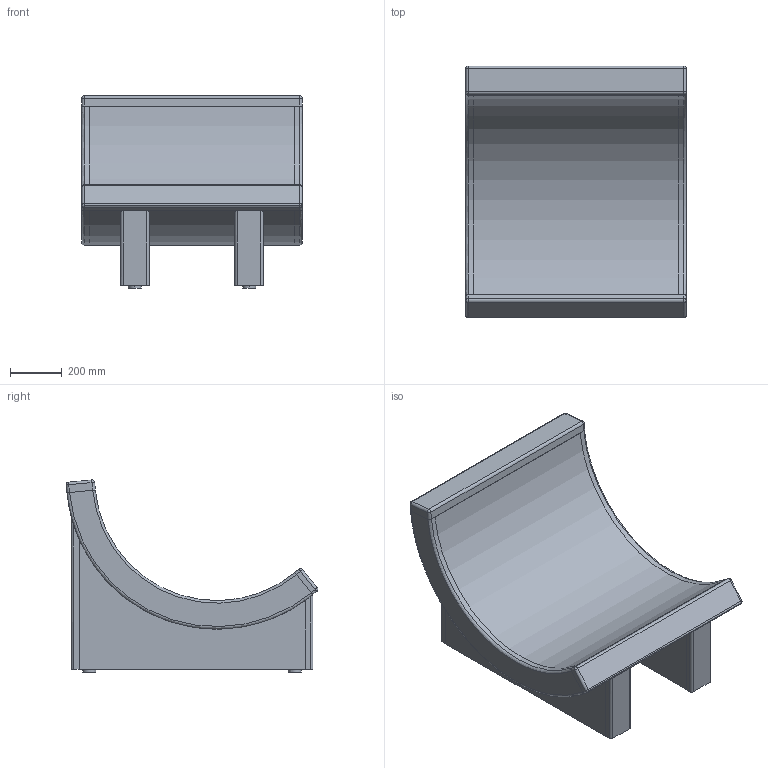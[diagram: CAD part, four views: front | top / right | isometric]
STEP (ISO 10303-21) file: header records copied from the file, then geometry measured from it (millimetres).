
FILE_DESCRIPTION(/* description */ (''),/* implementation_level */ '2;1');
FILE_NAME(/* name */ 'Poltrona PM_L85_Acerbis',/* time_stamp */ '2025-02-11T14:01:44+01:00',/* author */ (''),/* organization */ (''),/* preprocessor_version */ 'ST-DEVELOPER v19.2',/* originating_system */ 'Rhino 8.6',/* authorisation */ '');
FILE_SCHEMA (('AUTOMOTIVE_DESIGN'));
Length unit declared in the file: millimetre
Products named in the file (1): Document
Bounding box: 850 x 968.81 x 739.41 mm (x, y, z)
Volume: 161675958.1 mm3; surface area: 5227580.7 mm2
Topology: 15 solids, 15 shells, 121 faces, 246 edges, 155 vertices
Faces by surface type: plane 62, cylinder 45, bspline 14
Entity records: 4102 total; most frequent: CARTESIAN_POINT 1835, ORIENTED_EDGE 492, DIRECTION 305, EDGE_CURVE 246, AXIS2_PLACEMENT_3D 206, VERTEX_POINT 155, B_SPLINE_CURVE_WITH_KNOTS 138, ADVANCED_FACE 121
